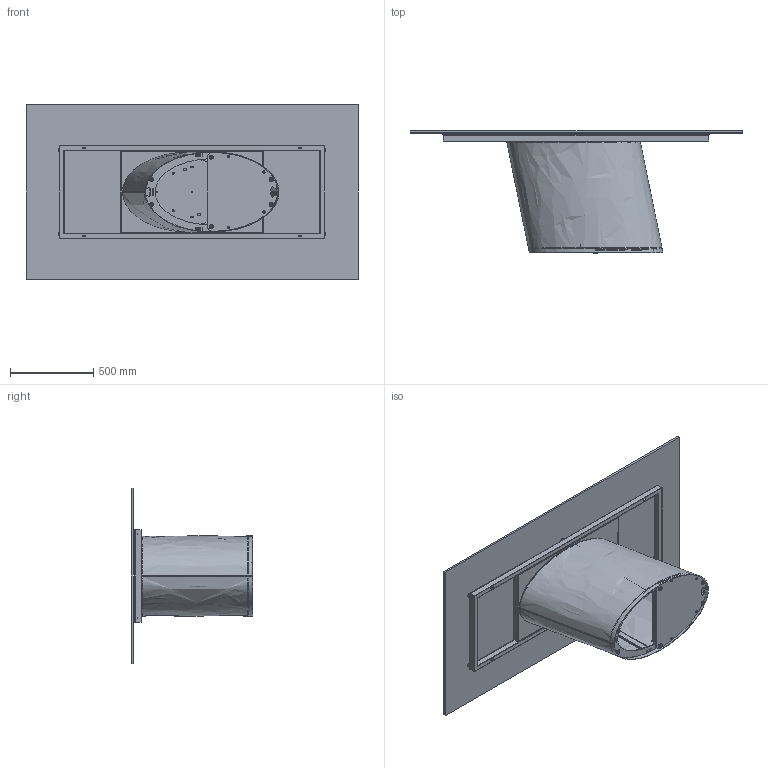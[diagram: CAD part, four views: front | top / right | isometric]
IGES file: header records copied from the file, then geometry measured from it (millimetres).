
Start section: SolidWorks IGES file using analytic representation for surfaces
Global section: file name: Y:\eforma\TECNICO\SOLIDWORKS\E-FORMA\1-TAVOLI\DORADO\02 parts\DO21G.IGS; native system: SolidWorks 2022; preprocessor: SolidWorks 2022; author: eforma.tech; date: 240806.150914; units: millimetre
Bounding box: 2000 x 734 x 1060 mm (x, y, z)
Volume: 37601099.9 mm3; surface area: 11570195.4 mm2
Topology: 49 solids, 49 shells, 1104 faces, 2676 edges, 1684 vertices
Faces by surface type: revolution 670, plane 408, bspline 26
